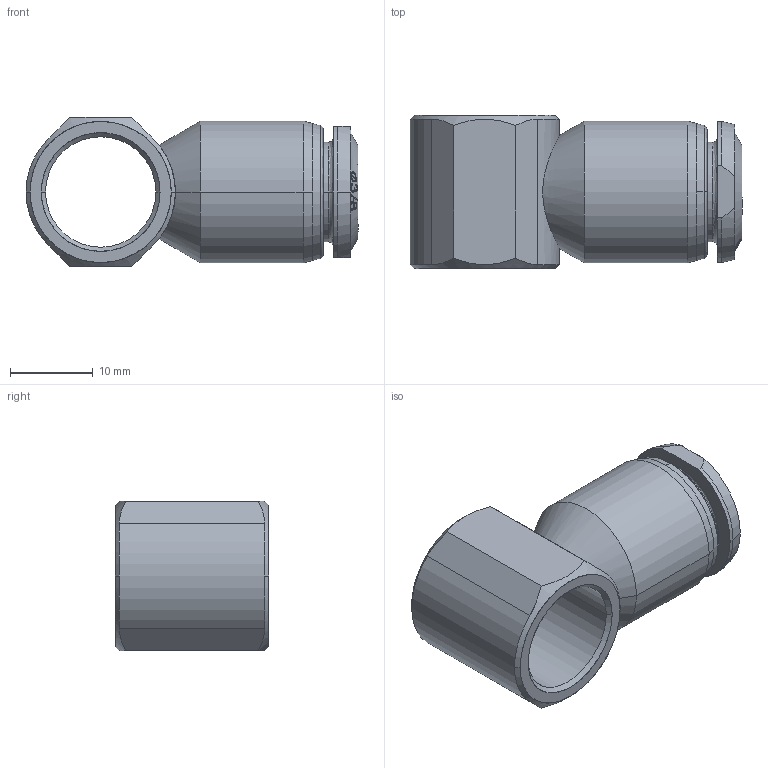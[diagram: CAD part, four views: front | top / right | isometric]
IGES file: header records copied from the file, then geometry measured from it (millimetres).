
Start section: SolidWorks IGES file using analytic representation for surfaces
Global section: file name: K:\Disegni Esecutivi\ALPHA TECHNOLOGIES\85000\Assiemi-85000\85500\IGES\8550000020A.IGS; native system: SolidWorks 2016; preprocessor: SolidWorks 2016; author: cad06; date: 200520.133723; units: millimetre
Bounding box: 40 x 18.5 x 18 mm (x, y, z)
Surface area: 4097.4 mm2 (no closed solid volume)
Topology: 0 solids, 0 shells, 119 faces, 1485 edges, 1485 vertices
Faces by surface type: bspline 76, revolution 43
